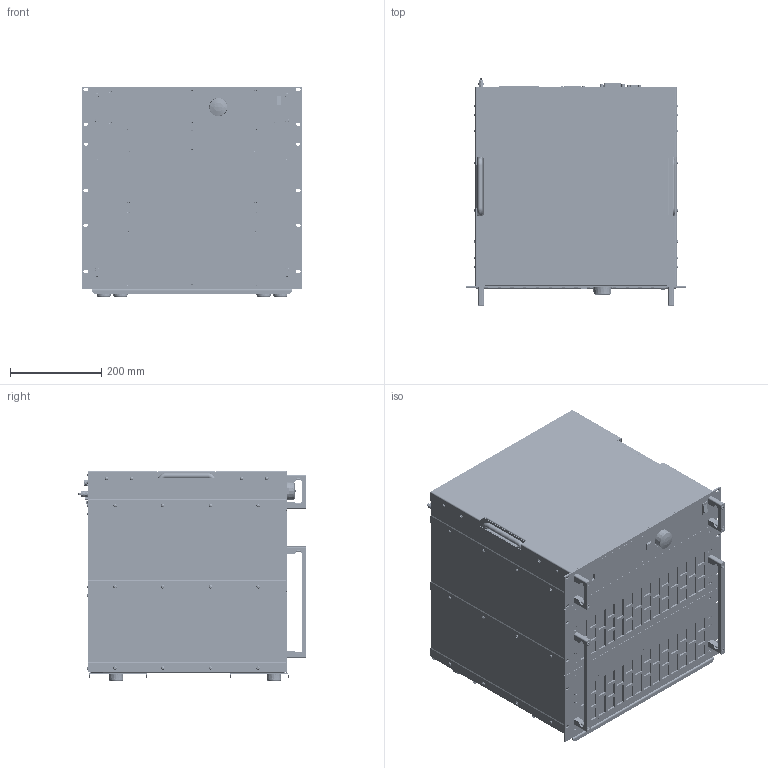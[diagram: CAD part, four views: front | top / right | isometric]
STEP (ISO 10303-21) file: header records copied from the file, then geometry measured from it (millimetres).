
FILE_DESCRIPTION(('STEP AP214'),'1');
FILE_NAME('ACL_M3_19Z_10HE_PH7_10.16-ST76_BRA_3D_02.step','2020-02-20T06:16:28',(' '),(' '),'Spatial InterOp 3D',' ',' ');
FILE_SCHEMA(('AUTOMOTIVE_DESIGN { 1 0 10303 214 1 1 1 1 }'));
Length unit declared in the file: millimetre
Products named in the file (21): 3666_2HE_ug-05_055; 3158_6HE_ug-05_224; *U367; *U368; *U369; *U370; *U371; *U372; *U373; 2078_ACL_IO Panel_02; 1962_ACL_Rückwand Steuerteil_mit_Druck_3D_03; *U404; *U439; *U440; *U441; *U443; *U444; *U445; *U446; AutoCreatedBlock_2242
Assembly tree (100 placements, depth 2):
  (unnamed)
    3666_2HE_ug-05_055  x2
    3158_6HE_ug-05_224  x2
    *U367  x2
    *U368
    *U369  x3
    *U370  x2
    *U371  x2
    *U372  x17
    *U373  x16
    2078_ACL_IO Panel_02  x3
    1962_ACL_Rückwand Steuerteil_mit_Druck_3D_03
    *U404  x4
    *U439  x8
    *U440  x6
    *U441  x8
    *U443  x6
    *U444  x6
    *U445  x8
    *U446  x2
    AutoCreatedBlock_2242
Bounding box: 482.6 x 497.66 x 461.44 mm (x, y, z)
Volume: 79169046.7 mm3; surface area: 5235961.2 mm2
Topology: 267 solids, 389 shells, 22494 faces, 56023 edges, 35209 vertices
Faces by surface type: plane 10551, cone 7320, cylinder 3908, sphere 298, torus 227, bspline 190
Entity records: 728427 total; most frequent: CARTESIAN_POINT 130638, DIRECTION 95118, ORIENTED_EDGE 90696, EDGE_CURVE 45622, AXIS2_PLACEMENT_3D 31797, LINE 31524, VECTOR 31524, VERTEX_POINT 28747
